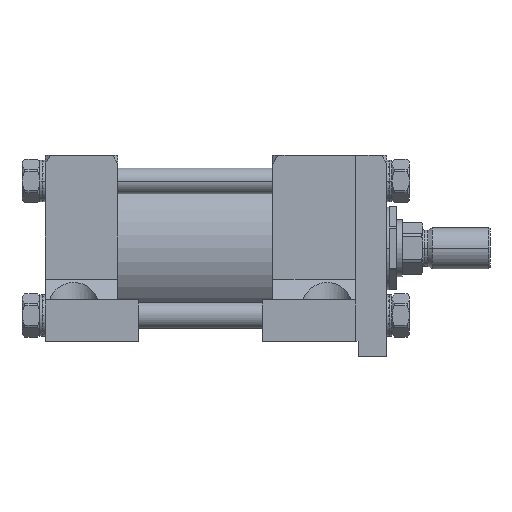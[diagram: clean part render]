
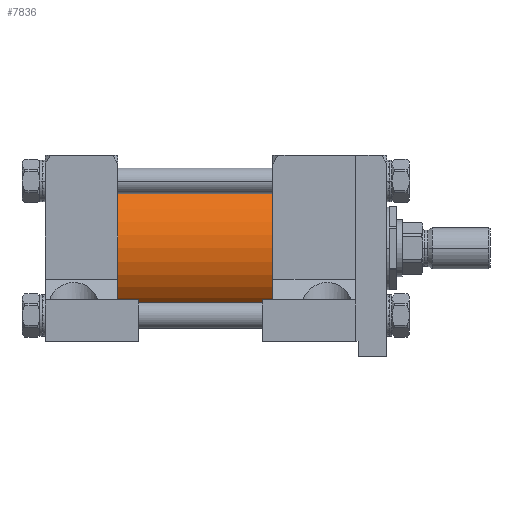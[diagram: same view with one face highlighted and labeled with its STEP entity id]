
A CAD part, front view. The second image highlights one B-rep face of the part: STEP entity #7836.
In plain terms, the highlighted cylindrical face has radius 47.625 mm (diameter 95.25 mm), a partial arc.
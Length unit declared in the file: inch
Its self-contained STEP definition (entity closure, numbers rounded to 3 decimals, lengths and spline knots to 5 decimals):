
#64 = DIRECTION ( 'NONE',  ( 1., 0., 0. ) ) ;
#2971 = VECTOR ( 'NONE', #55752, 39.37008 ) ;
#5300 = DIRECTION ( 'NONE',  ( 1., 0., 0. ) ) ;
#5947 = LINE ( 'NONE', #34806, #56222 ) ;
#7632 = VERTEX_POINT ( 'NONE', #53385 ) ;
#7836 = ADVANCED_FACE ( 'NONE', ( #23758 ), #34761, .T. ) ;
#8508 = DIRECTION ( 'NONE',  ( 1., 0., 0. ) ) ;
#11521 = CIRCLE ( 'NONE', #33261, 1.875 ) ;
#12509 = VERTEX_POINT ( 'NONE', #21641 ) ;
#14564 = CARTESIAN_POINT ( 'NONE',  ( -7.625, 0., 1.875 ) ) ;
#18922 = CARTESIAN_POINT ( 'NONE',  ( -7.625, 0., 0. ) ) ;
#19570 = CARTESIAN_POINT ( 'NONE',  ( -7.625, 0., 0. ) ) ;
#21512 = ORIENTED_EDGE ( 'NONE', *, *, #27700, .T. ) ;
#21641 = CARTESIAN_POINT ( 'NONE',  ( -3.375, 0., -1.875 ) ) ;
#21734 = VERTEX_POINT ( 'NONE', #14564 ) ;
#22086 = ORIENTED_EDGE ( 'NONE', *, *, #26242, .T. ) ;
#23758 = FACE_OUTER_BOUND ( 'NONE', #31396, .T. ) ;
#24087 = DIRECTION ( 'NONE',  ( 0., 1., 0. ) ) ;
#25371 = DIRECTION ( 'NONE',  ( 0., 0., -1. ) ) ;
#26242 = EDGE_CURVE ( 'NONE', #21734, #7632, #63362, .T. ) ;
#27700 = EDGE_CURVE ( 'NONE', #7632, #12509, #5947, .T. ) ;
#31396 = EDGE_LOOP ( 'NONE', ( #57500, #22086, #21512, #64062 ) ) ;
#33261 = AXIS2_PLACEMENT_3D ( 'NONE', #54709, #43967, #49828 ) ;
#34761 = CYLINDRICAL_SURFACE ( 'NONE', #42407, 1.875 ) ;
#34806 = CARTESIAN_POINT ( 'NONE',  ( -7.625, 0., -1.875 ) ) ;
#35885 = CARTESIAN_POINT ( 'NONE',  ( -7.625, 0., 1.875 ) ) ;
#37380 = AXIS2_PLACEMENT_3D ( 'NONE', #18922, #8508, #24087 ) ;
#40084 = LINE ( 'NONE', #35885, #2971 ) ;
#42407 = AXIS2_PLACEMENT_3D ( 'NONE', #19570, #64, #25371 ) ;
#43967 = DIRECTION ( 'NONE',  ( 1., 0., 0. ) ) ;
#43998 = VERTEX_POINT ( 'NONE', #56346 ) ;
#45979 = EDGE_CURVE ( 'NONE', #43998, #12509, #11521, .T. ) ;
#48634 = EDGE_CURVE ( 'NONE', #21734, #43998, #40084, .T. ) ;
#49828 = DIRECTION ( 'NONE',  ( 0., 1., 0. ) ) ;
#53385 = CARTESIAN_POINT ( 'NONE',  ( -7.625, 0., -1.875 ) ) ;
#54709 = CARTESIAN_POINT ( 'NONE',  ( -3.375, 0., 0. ) ) ;
#55752 = DIRECTION ( 'NONE',  ( 1., 0., 0. ) ) ;
#56222 = VECTOR ( 'NONE', #5300, 39.37008 ) ;
#56346 = CARTESIAN_POINT ( 'NONE',  ( -3.375, 0., 1.875 ) ) ;
#57500 = ORIENTED_EDGE ( 'NONE', *, *, #48634, .F. ) ;
#63362 = CIRCLE ( 'NONE', #37380, 1.875 ) ;
#64062 = ORIENTED_EDGE ( 'NONE', *, *, #45979, .F. ) ;
